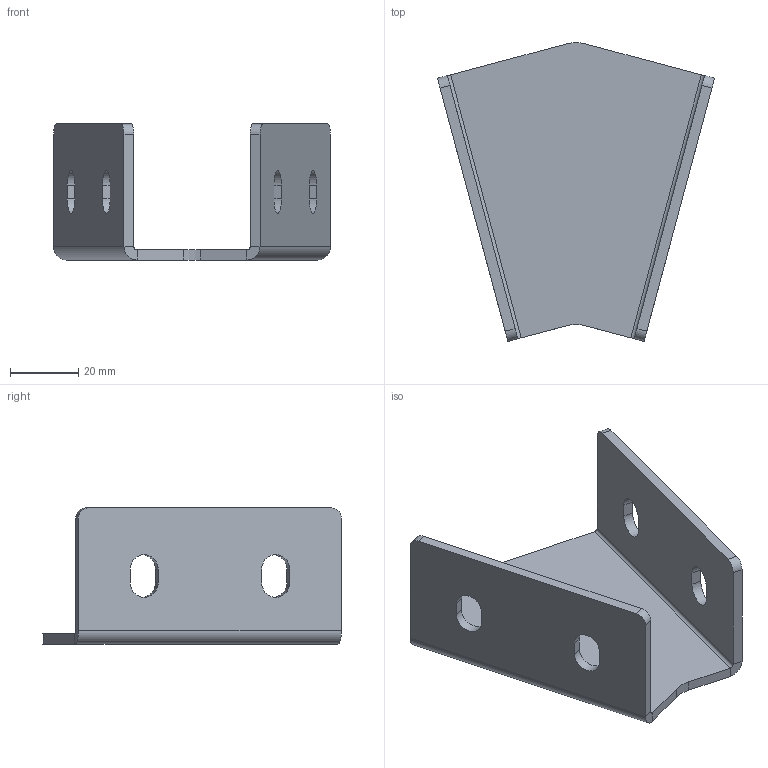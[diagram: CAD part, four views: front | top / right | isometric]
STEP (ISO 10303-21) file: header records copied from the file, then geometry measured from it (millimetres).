
FILE_DESCRIPTION (( 'STEP AP214' ), '1' );
FILE_NAME ('408030.STEP', '2018-02-22T07:55:45', ( '' ), ( '' ), 'SwSTEP 2.0', 'SolidWorks 2014', '' );
FILE_SCHEMA (( 'AUTOMOTIVE_DESIGN' ));
Length unit declared in the file: millimetre
Products named in the file (2): 408030
Bounding box: 81.41 x 87.79 x 40 mm (x, y, z)
Volume: 31216.1 mm3; surface area: 22499.2 mm2
Topology: 1 solids, 1 shells, 46 faces, 116 edges, 72 vertices
Faces by surface type: plane 28, cylinder 18
Entity records: 1433 total; most frequent: DIRECTION 248, CARTESIAN_POINT 236, ORIENTED_EDGE 232, EDGE_CURVE 116, AXIS2_PLACEMENT_3D 84, VECTOR 80, LINE 80, VERTEX_POINT 72
